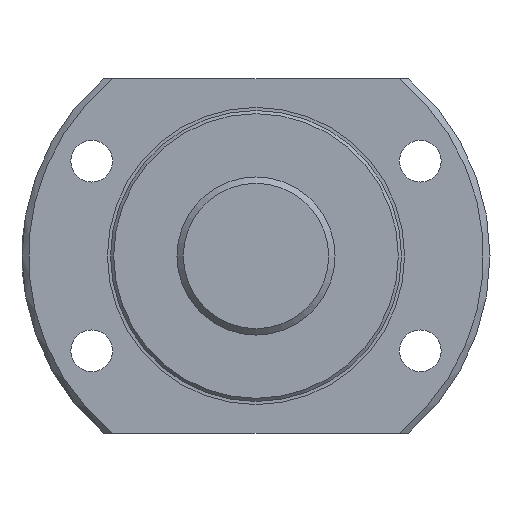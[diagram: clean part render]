
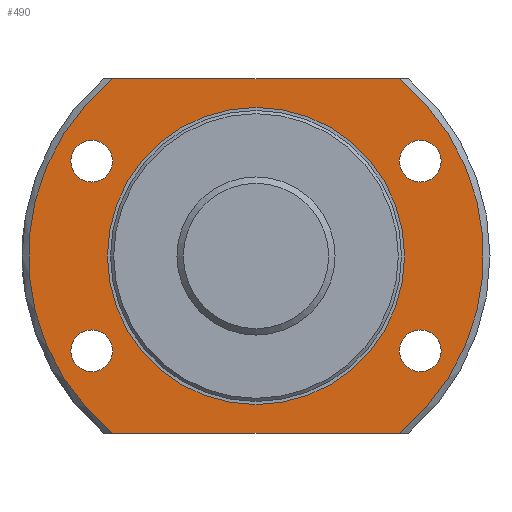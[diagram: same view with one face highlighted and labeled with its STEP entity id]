
A CAD part, left-side view. The second image highlights one B-rep face of the part: STEP entity #490.
In plain terms, the highlighted planar face has unit normal (-1, 0, 0).
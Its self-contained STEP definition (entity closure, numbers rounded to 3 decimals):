
#34=LINE('',#895,#42);
#35=LINE('',#896,#43);
#42=VECTOR('',#711,1000.);
#43=VECTOR('',#712,1000.);
#141=ORIENTED_EDGE('',*,*,#228,.T.);
#142=ORIENTED_EDGE('',*,*,#229,.F.);
#143=ORIENTED_EDGE('',*,*,#203,.F.);
#144=ORIENTED_EDGE('',*,*,#230,.F.);
#145=ORIENTED_EDGE('',*,*,#226,.F.);
#146=ORIENTED_EDGE('',*,*,#231,.T.);
#147=ORIENTED_EDGE('',*,*,#232,.T.);
#148=ORIENTED_EDGE('',*,*,#233,.T.);
#149=ORIENTED_EDGE('',*,*,#234,.T.);
#203=EDGE_CURVE('',#256,#254,#295,.T.);
#226=EDGE_CURVE('',#273,#274,#311,.T.);
#228=EDGE_CURVE('',#275,#275,#312,.T.);
#229=EDGE_CURVE('',#254,#273,#34,.T.);
#230=EDGE_CURVE('',#274,#256,#35,.T.);
#231=EDGE_CURVE('',#276,#276,#313,.T.);
#232=EDGE_CURVE('',#277,#277,#314,.T.);
#233=EDGE_CURVE('',#278,#278,#315,.T.);
#234=EDGE_CURVE('',#279,#279,#316,.T.);
#254=VERTEX_POINT('',#816);
#256=VERTEX_POINT('',#823);
#273=VERTEX_POINT('',#885);
#274=VERTEX_POINT('',#887);
#275=VERTEX_POINT('',#894);
#276=VERTEX_POINT('',#898);
#277=VERTEX_POINT('',#900);
#278=VERTEX_POINT('',#902);
#279=VERTEX_POINT('',#904);
#295=CIRCLE('',#548,36.);
#311=CIRCLE('',#577,36.);
#312=CIRCLE('',#579,23.5);
#313=CIRCLE('',#580,3.3);
#314=CIRCLE('',#581,3.3);
#315=CIRCLE('',#582,3.3);
#316=CIRCLE('',#583,3.3);
#361=EDGE_LOOP('',(#141));
#362=EDGE_LOOP('',(#142,#143,#144,#145));
#363=EDGE_LOOP('',(#146));
#364=EDGE_LOOP('',(#147));
#365=EDGE_LOOP('',(#148));
#366=EDGE_LOOP('',(#149));
#429=FACE_BOUND('',#361,.T.);
#430=FACE_BOUND('',#362,.T.);
#431=FACE_BOUND('',#363,.T.);
#432=FACE_BOUND('',#364,.T.);
#433=FACE_BOUND('',#365,.T.);
#434=FACE_BOUND('',#366,.T.);
#465=PLANE('',#578);
#490=ADVANCED_FACE('',(#429,#430,#431,#432,#433,#434),#465,.T.);
#548=AXIS2_PLACEMENT_3D('',#824,#643,#644);
#577=AXIS2_PLACEMENT_3D('',#886,#705,#706);
#578=AXIS2_PLACEMENT_3D('',#892,#707,#708);
#579=AXIS2_PLACEMENT_3D('',#893,#709,#710);
#580=AXIS2_PLACEMENT_3D('',#897,#713,#714);
#581=AXIS2_PLACEMENT_3D('',#899,#715,#716);
#582=AXIS2_PLACEMENT_3D('',#901,#717,#718);
#583=AXIS2_PLACEMENT_3D('',#903,#719,#720);
#643=DIRECTION('',(1.,0.,0.));
#644=DIRECTION('',(0.,0.,-1.));
#705=DIRECTION('',(1.,0.,0.));
#706=DIRECTION('',(0.,0.,-1.));
#707=DIRECTION('',(-1.,0.,0.));
#708=DIRECTION('',(0.,0.,1.));
#709=DIRECTION('',(1.,0.,0.));
#710=DIRECTION('',(0.,0.,-1.));
#711=DIRECTION('',(0.,1.,0.));
#712=DIRECTION('',(0.,-1.,0.));
#713=DIRECTION('',(1.,0.,0.));
#714=DIRECTION('',(0.,0.,-1.));
#715=DIRECTION('',(1.,0.,0.));
#716=DIRECTION('',(0.,0.,-1.));
#717=DIRECTION('',(1.,0.,0.));
#718=DIRECTION('',(0.,0.,-1.));
#719=DIRECTION('',(1.,0.,0.));
#720=DIRECTION('',(0.,0.,-1.));
#816=CARTESIAN_POINT('',(7.,-22.627,-28.));
#823=CARTESIAN_POINT('',(7.,-22.627,28.));
#824=CARTESIAN_POINT('',(7.,0.,0.));
#885=CARTESIAN_POINT('',(7.,22.627,-28.));
#886=CARTESIAN_POINT('',(7.,0.,0.));
#887=CARTESIAN_POINT('',(7.,22.627,28.));
#892=CARTESIAN_POINT('',(7.,36.,0.));
#893=CARTESIAN_POINT('',(7.,0.,0.));
#894=CARTESIAN_POINT('',(7.,0.,-23.5));
#895=CARTESIAN_POINT('',(7.,36.,-28.));
#896=CARTESIAN_POINT('',(7.,36.,28.));
#897=CARTESIAN_POINT('',(7.,-25.981,15.));
#898=CARTESIAN_POINT('',(7.,-25.981,11.7));
#899=CARTESIAN_POINT('',(7.,-25.981,-15.));
#900=CARTESIAN_POINT('',(7.,-25.981,-18.3));
#901=CARTESIAN_POINT('',(7.,25.981,-15.));
#902=CARTESIAN_POINT('',(7.,25.981,-18.3));
#903=CARTESIAN_POINT('',(7.,25.981,15.));
#904=CARTESIAN_POINT('',(7.,25.981,11.7));
